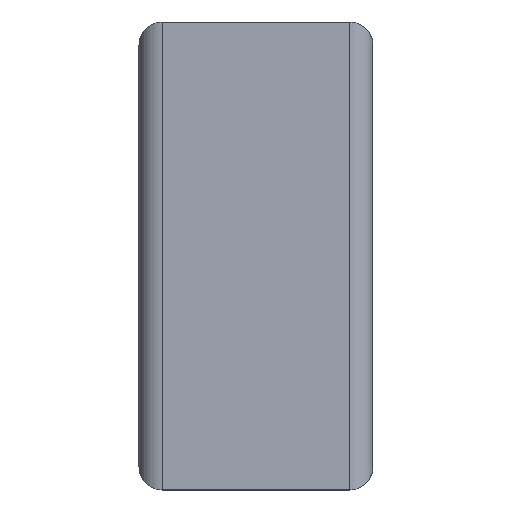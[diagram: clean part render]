
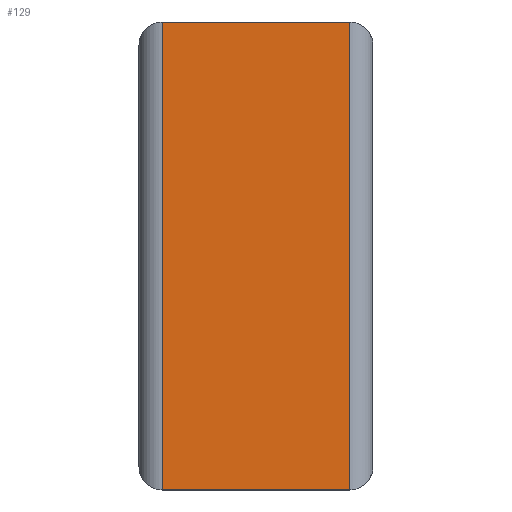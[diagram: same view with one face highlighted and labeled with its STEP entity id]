
A CAD part, left-side view. The second image highlights one B-rep face of the part: STEP entity #129.
In plain terms, the highlighted planar face has unit normal (-1, 0, 0).
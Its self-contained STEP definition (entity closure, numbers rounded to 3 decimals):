
#1 = LINE ( 'NONE', #349, #241 ) ;
#6 = EDGE_LOOP ( 'NONE', ( #158, #236, #132, #418 ) ) ;
#18 = CARTESIAN_POINT ( 'NONE',  ( -60., 2., 5. ) ) ;
#64 = DIRECTION ( 'NONE',  ( 0., -1., 0. ) ) ;
#65 = CARTESIAN_POINT ( 'NONE',  ( -60., 2.5, -5. ) ) ;
#129 = ADVANCED_FACE ( 'NONE', ( #509 ), #226, .F. ) ;
#132 = ORIENTED_EDGE ( 'NONE', *, *, #568, .F. ) ;
#153 = AXIS2_PLACEMENT_3D ( 'NONE', #65, #506, #632 ) ;
#158 = ORIENTED_EDGE ( 'NONE', *, *, #486, .T. ) ;
#193 = DIRECTION ( 'NONE',  ( 0., 0., 1. ) ) ;
#226 = PLANE ( 'NONE',  #153 ) ;
#230 = DIRECTION ( 'NONE',  ( 0., -1., 0. ) ) ;
#236 = ORIENTED_EDGE ( 'NONE', *, *, #276, .T. ) ;
#241 = VECTOR ( 'NONE', #230, 1000. ) ;
#259 = VERTEX_POINT ( 'NONE', #593 ) ;
#276 = EDGE_CURVE ( 'NONE', #647, #259, #715, .T. ) ;
#349 = CARTESIAN_POINT ( 'NONE',  ( -60., 2.5, -5. ) ) ;
#390 = LINE ( 'NONE', #618, #512 ) ;
#418 = ORIENTED_EDGE ( 'NONE', *, *, #648, .T. ) ;
#437 = CARTESIAN_POINT ( 'NONE',  ( -60., 2., -5. ) ) ;
#461 = VERTEX_POINT ( 'NONE', #437 ) ;
#462 = LINE ( 'NONE', #531, #477 ) ;
#477 = VECTOR ( 'NONE', #649, 1000. ) ;
#479 = CARTESIAN_POINT ( 'NONE',  ( -60., -2., 5. ) ) ;
#486 = EDGE_CURVE ( 'NONE', #461, #647, #1, .T. ) ;
#506 = DIRECTION ( 'NONE',  ( 1., 0., 0. ) ) ;
#509 = FACE_OUTER_BOUND ( 'NONE', #6, .T. ) ;
#512 = VECTOR ( 'NONE', #64, 1000. ) ;
#531 = CARTESIAN_POINT ( 'NONE',  ( -60., 2., -5. ) ) ;
#568 = EDGE_CURVE ( 'NONE', #654, #259, #390, .T. ) ;
#593 = CARTESIAN_POINT ( 'NONE',  ( -60., -2., 5. ) ) ;
#618 = CARTESIAN_POINT ( 'NONE',  ( -60., 2.5, 5. ) ) ;
#632 = DIRECTION ( 'NONE',  ( 0., 0., -1. ) ) ;
#634 = CARTESIAN_POINT ( 'NONE',  ( -60., -2., -5. ) ) ;
#642 = VECTOR ( 'NONE', #193, 1000. ) ;
#647 = VERTEX_POINT ( 'NONE', #634 ) ;
#648 = EDGE_CURVE ( 'NONE', #654, #461, #462, .T. ) ;
#649 = DIRECTION ( 'NONE',  ( 0., 0., -1. ) ) ;
#654 = VERTEX_POINT ( 'NONE', #18 ) ;
#715 = LINE ( 'NONE', #479, #642 ) ;
